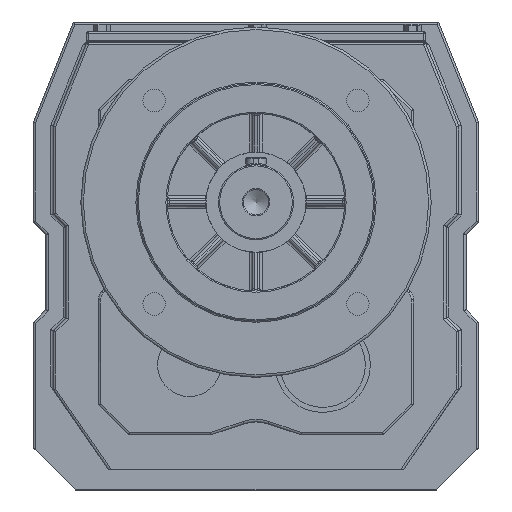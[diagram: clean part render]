
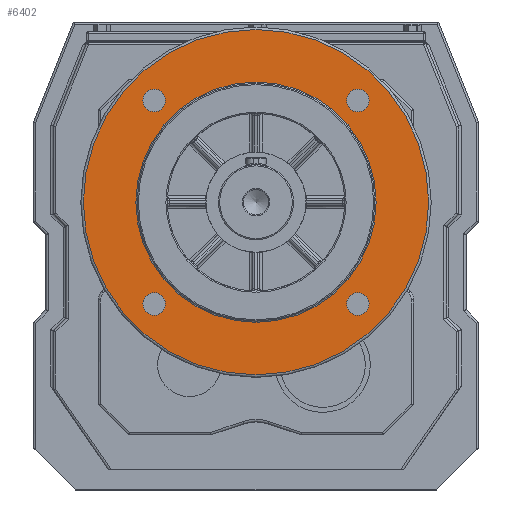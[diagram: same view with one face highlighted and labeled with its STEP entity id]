
A CAD part, front view. The second image highlights one B-rep face of the part: STEP entity #6402.
In plain terms, the highlighted planar face has unit normal (0, -1, 0).
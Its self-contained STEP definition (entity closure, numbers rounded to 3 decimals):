
#105=CARTESIAN_POINT('',(-36.159,-112.5,155.659));
#106=VERTEX_POINT('',#105);
#107=CARTESIAN_POINT('',(-40.659,-112.5,155.659));
#108=DIRECTION('',(0.0,1.0,0.0));
#109=DIRECTION('',(1.0,0.0,0.0));
#110=AXIS2_PLACEMENT_3D('',#107,#108,#109);
#111=CIRCLE('',#110,4.5);
#112=EDGE_CURVE('',#106,#106,#111,.T.);
#154=CARTESIAN_POINT('',(-36.159,-112.5,74.341));
#155=VERTEX_POINT('',#154);
#156=CARTESIAN_POINT('',(-40.659,-112.5,74.341));
#157=DIRECTION('',(0.0,1.0,0.0));
#158=DIRECTION('',(1.0,0.0,0.0));
#159=AXIS2_PLACEMENT_3D('',#156,#157,#158);
#160=CIRCLE('',#159,4.5);
#161=EDGE_CURVE('',#155,#155,#160,.T.);
#203=CARTESIAN_POINT('',(45.159,-112.5,74.341));
#204=VERTEX_POINT('',#203);
#205=CARTESIAN_POINT('',(40.659,-112.5,74.341));
#206=DIRECTION('',(0.0,1.0,0.0));
#207=DIRECTION('',(1.0,0.0,0.0));
#208=AXIS2_PLACEMENT_3D('',#205,#206,#207);
#209=CIRCLE('',#208,4.5);
#210=EDGE_CURVE('',#204,#204,#209,.T.);
#252=CARTESIAN_POINT('',(45.159,-112.5,155.659));
#253=VERTEX_POINT('',#252);
#254=CARTESIAN_POINT('',(40.659,-112.5,155.659));
#255=DIRECTION('',(0.0,1.0,0.0));
#256=DIRECTION('',(1.0,0.0,0.0));
#257=AXIS2_PLACEMENT_3D('',#254,#255,#256);
#258=CIRCLE('',#257,4.5);
#259=EDGE_CURVE('',#253,#253,#258,.T.);
#6356=CARTESIAN_POINT('',(0.0,-112.5,184.0));
#6357=VERTEX_POINT('',#6356);
#6358=CARTESIAN_POINT('',(0.0,-112.5,115.));
#6359=DIRECTION('',(0.0,1.0,0.0));
#6360=DIRECTION('',(0.0,0.0,-1.0));
#6361=AXIS2_PLACEMENT_3D('',#6358,#6359,#6360);
#6362=CIRCLE('',#6361,69.);
#6363=EDGE_CURVE('',#6357,#6357,#6362,.T.);
#6371=CARTESIAN_POINT('',(0.0,-112.5,173.75));
#6372=DIRECTION('',(0.0,-1.0,0.0));
#6373=DIRECTION('',(0.0,0.0,-1.0));
#6374=AXIS2_PLACEMENT_3D('',#6371,#6372,#6373);
#6375=PLANE('',#6374);
#6376=ORIENTED_EDGE('',*,*,#6363,.F.);
#6377=EDGE_LOOP('',(#6376));
#6378=FACE_OUTER_BOUND('',#6377,.T.);
#6379=ORIENTED_EDGE('',*,*,#112,.T.);
#6380=EDGE_LOOP('',(#6379));
#6381=FACE_BOUND('',#6380,.T.);
#6382=ORIENTED_EDGE('',*,*,#161,.T.);
#6383=EDGE_LOOP('',(#6382));
#6384=FACE_BOUND('',#6383,.T.);
#6385=ORIENTED_EDGE('',*,*,#210,.T.);
#6386=EDGE_LOOP('',(#6385));
#6387=FACE_BOUND('',#6386,.T.);
#6388=ORIENTED_EDGE('',*,*,#259,.T.);
#6389=EDGE_LOOP('',(#6388));
#6390=FACE_BOUND('',#6389,.T.);
#6391=CARTESIAN_POINT('',(0.,-112.5,163.0));
#6392=VERTEX_POINT('',#6391);
#6393=CARTESIAN_POINT('',(0.0,-112.5,115.));
#6394=DIRECTION('',(0.0,-1.0,0.0));
#6395=DIRECTION('',(0.0,0.0,-1.0));
#6396=AXIS2_PLACEMENT_3D('',#6393,#6394,#6395);
#6397=CIRCLE('',#6396,48.);
#6398=EDGE_CURVE('',#6392,#6392,#6397,.T.);
#6399=ORIENTED_EDGE('',*,*,#6398,.F.);
#6400=EDGE_LOOP('',(#6399));
#6401=FACE_BOUND('',#6400,.T.);
#6402=ADVANCED_FACE('',(#6378,#6381,#6384,#6387,#6390,#6401),#6375,.T.);
